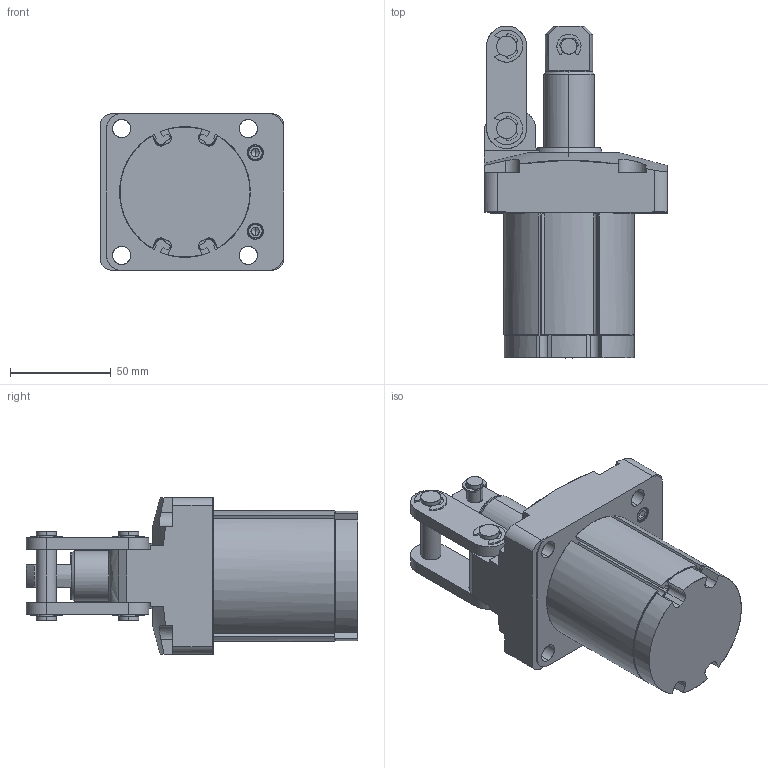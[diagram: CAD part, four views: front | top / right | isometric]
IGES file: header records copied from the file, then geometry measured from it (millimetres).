
Start section: Comment
Global section: file name: jss40-35.igs; native system:  By Spatial Corp.; preprocessor: XPlus GENERIC/IGES 3.0; author: Author; organization: Title; date: 20080526.132031; units: millimetre
Bounding box: 91 x 165 x 78 mm (x, y, z)
Surface area: 85523.9 mm2 (no closed solid volume)
Topology: 0 solids, 0 shells, 492 faces, 2640 edges, 2628 vertices
Faces by surface type: bspline 492
